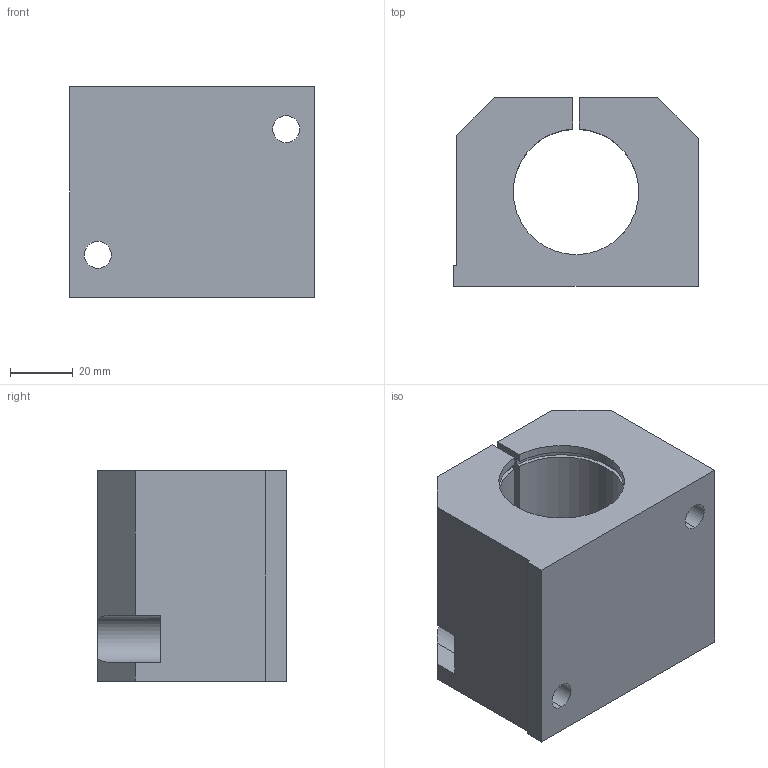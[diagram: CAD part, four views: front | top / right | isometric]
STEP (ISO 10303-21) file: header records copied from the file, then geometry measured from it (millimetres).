
FILE_DESCRIPTION (( 'STEP AP214' ), '1' );
FILE_NAME ('KGE36-25.step', '2020-03-04T13:20:14', ( '' ), ( '' ), 'SwSTEP 2.0', 'SolidWorks 2019', '' );
FILE_SCHEMA (( 'AUTOMOTIVE_DESIGN' ));
Length unit declared in the file: millimetre
Products named in the file (1): KGE36-25
Bounding box: 78 x 60 x 67 mm (x, y, z)
Volume: 199220.4 mm3; surface area: 38331.9 mm2
Topology: 1 solids, 1 shells, 61 faces, 168 edges, 109 vertices
Faces by surface type: cylinder 31, plane 26, cone 4
Entity records: 2126 total; most frequent: CARTESIAN_POINT 409, DIRECTION 340, ORIENTED_EDGE 332, EDGE_CURVE 166, AXIS2_PLACEMENT_3D 120, VERTEX_POINT 109, VECTOR 100, LINE 100
